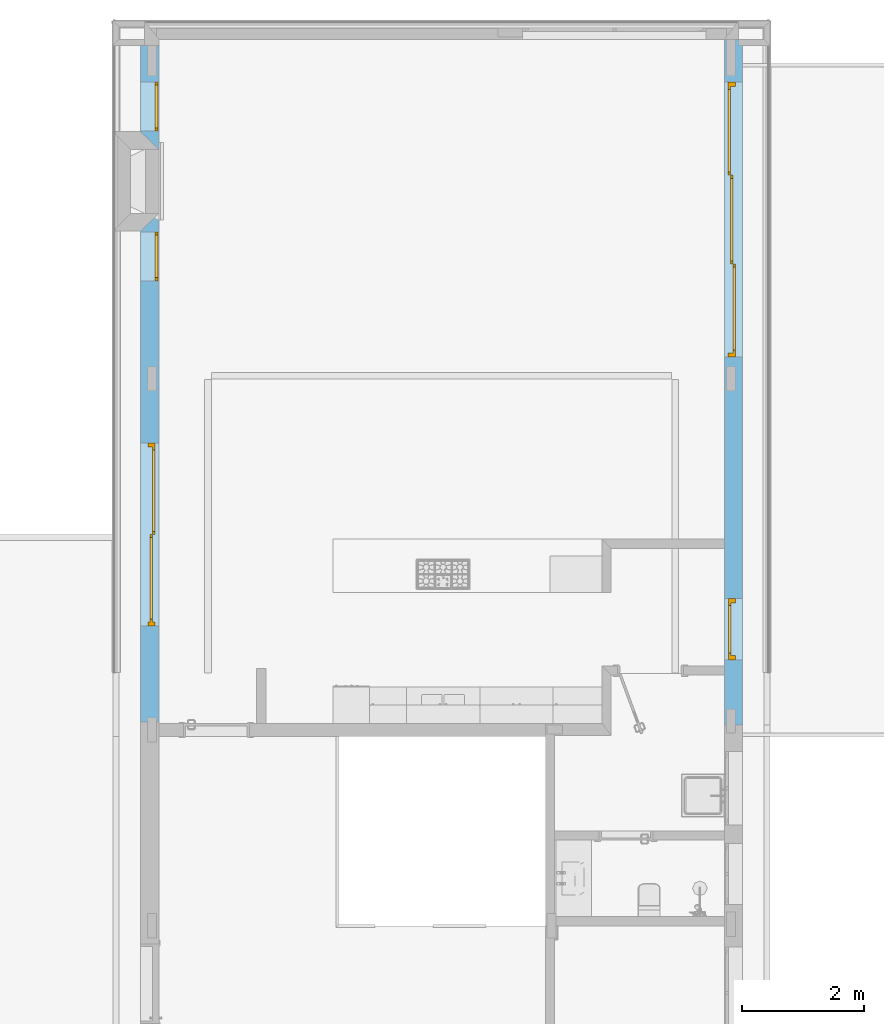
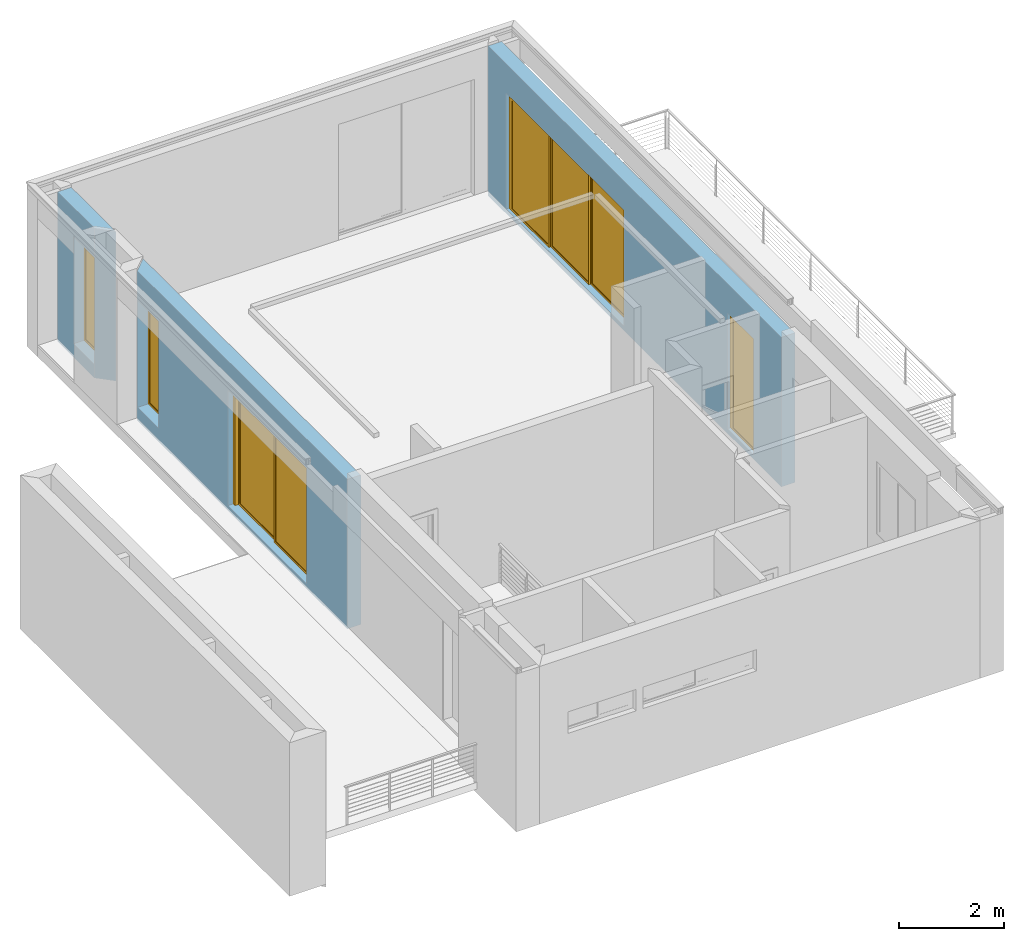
# One storey, part 12 of 26: 3 doors, 2 windows, 5 openings, plus 3 elements that do not belong to this part.
"""IFC2X3 building model written with IfcOpenShell, lengths in millimetres."""

import ifcopenshell
import ifcopenshell.guid

model = None  # the IFC model being written
_history = None  # IfcOwnerHistory: only IFC2X3 demands one
_inside = {}  # id of a spatial element -> (the spatial element, [elements in it])
_under = {}  # id of a project, library or spatial element -> (it, [spatial elements below it])
_declared = {}  # id of a project -> (the project, [libraries it declares])
_typed = {}  # id of a type object -> (the type object, [elements of that type])
_made_of = {}  # id of a material, layer set ... -> (it, [elements and type objects made of it])


def new_model(schema):
    """Start an empty IFC model of exactly this schema.

    Asked for "IFC4X3", IfcOpenShell would pick the latest addendum, in which some entities
    have other attributes; the version numbers below select the first issue.
    IFC2X3 requires an IfcOwnerHistory on every rooted entity: one is made here for all.
    """
    global model, _history
    if schema == "IFC4X3":
        model = ifcopenshell.file(schema_version=(4, 3, 0, 0))
    else:
        model = ifcopenshell.file(schema=schema)
    _inside.clear()
    _under.clear()
    _declared.clear()
    _typed.clear()
    _made_of.clear()
    _history = None
    if model.schema == "IFC2X3":
        org = make("IfcOrganization", Name="unknown")
        user = make(
            "IfcPersonAndOrganization",
            ThePerson=make("IfcPerson", FamilyName="unknown"),
            TheOrganization=org,
        )
        app = make(
            "IfcApplication",
            ApplicationDeveloper=org,
            Version="unknown",
            ApplicationFullName="unknown",
            ApplicationIdentifier="unknown",
        )
        _history = make(
            "IfcOwnerHistory",
            OwningUser=user,
            OwningApplication=app,
            ChangeAction="ADDED",
            CreationDate=0,
        )
    return model


def make(cls, **values):
    """One entity of the class cls with the attributes given. An attribute that is None is left unset."""
    return model.create_entity(
        cls, **{name: value for name, value in values.items() if value is not None}
    )


def entity(cls, *values):
    """Any entity or typed value of the class cls, its attributes in the order of the schema. None: left unset."""
    e = model.create_entity(cls)
    for i, value in enumerate(values):
        if value is not None:
            e[i] = value
    return e


def rooted(cls, **values):
    """An entity with a GlobalId (a new one), such as an element, a storey or a relation."""
    return make(cls, GlobalId=ifcopenshell.guid.new(), OwnerHistory=_history, **values)


def si_unit(unit_type, name, prefix=None):
    """IfcSIUnit, for example si_unit("LENGTHUNIT", "METRE", prefix="MILLI")."""
    return make("IfcSIUnit", UnitType=unit_type, Prefix=prefix, Name=name)


def converted_unit(unit_type, name, factor, base, dimensions=None, offset=None):
    """IfcConversionBasedUnit, such as the inch: factor (a typed value) times the base unit."""
    return make(
        "IfcConversionBasedUnit"
        if offset is None
        else "IfcConversionBasedUnitWithOffset",
        ConversionOffset=offset,
        Dimensions=None
        if dimensions is None
        else entity("IfcDimensionalExponents", *dimensions),
        UnitType=unit_type,
        Name=name,
        ConversionFactor=make(
            "IfcMeasureWithUnit", ValueComponent=factor, UnitComponent=base
        ),
    )


def money_unit(currency):
    """IfcMonetaryUnit."""
    return make("IfcMonetaryUnit", Currency=currency)


def assignment(units):
    """IfcUnitAssignment: the units of a project."""
    return None if units is None else make("IfcUnitAssignment", Units=units)


def point(xyz):
    """IfcCartesianPoint."""
    return None if xyz is None else make("IfcCartesianPoint", Coordinates=xyz)


def direction(xyz):
    """IfcDirection."""
    return None if xyz is None else make("IfcDirection", DirectionRatios=xyz)


def frame(location, z_axis=None, x_axis=None):
    """IfcAxis2Placement3D, a coordinate frame: its origin and axes. An axis left out is left unset."""
    return make(
        "IfcAxis2Placement3D",
        Location=point(location),
        Axis=direction(z_axis),
        RefDirection=direction(x_axis),
    )


def frame_2d(location, x_axis=None):
    """IfcAxis2Placement2D, a coordinate frame in the plane: its origin and x axis."""
    return make(
        "IfcAxis2Placement2D", Location=point(location), RefDirection=direction(x_axis)
    )


def origin_with_axes():
    """The frame at (0, 0, 0) with the z axis (0, 0, 1) and the x axis (1, 0, 0) written out."""
    return frame((0.0, 0.0, 0.0), z_axis=(0.0, 0.0, 1.0), x_axis=(1.0, 0.0, 0.0))


def origin_2d_with_axis():
    """The frame at (0, 0) in the plane with the x axis (1, 0) written out."""
    return frame_2d((0.0, 0.0), x_axis=(1.0, 0.0))


def place(relative_to, where):
    """IfcLocalPlacement: puts the frame where relative to a parent placement (None: the world)."""
    return make(
        "IfcLocalPlacement", PlacementRelTo=relative_to, RelativePlacement=where
    )


def context(
    kind, dimensions, precision=None, world=None, true_north=None, identifier=None
):
    """IfcGeometricRepresentationContext, for example the 3D "Model" context."""
    return make(
        "IfcGeometricRepresentationContext",
        ContextIdentifier=identifier,
        ContextType=kind,
        CoordinateSpaceDimension=dimensions,
        Precision=precision,
        WorldCoordinateSystem=world,
        TrueNorth=true_north,
    )


def subcontext(parent, identifier, kind, view, scale=None):
    """IfcGeometricRepresentationSubContext, for example "Body" below "Model"."""
    return make(
        "IfcGeometricRepresentationSubContext",
        ContextIdentifier=identifier,
        ContextType=kind,
        ParentContext=parent,
        TargetScale=scale,
        TargetView=view,
    )


def project(units=None, contexts=None):
    """IfcProject with its units and contexts."""
    return rooted(
        "IfcProject",
        Name="project",
        RepresentationContexts=contexts,
        UnitsInContext=assignment(units),
    )


def spatial(cls, under=None, at=None, **own):
    """A site, building, storey or space (cls), placed at a placement, below another one or the project."""
    s = rooted(cls, ObjectPlacement=at, **own)
    if under is not None:
        _under.setdefault(under.id(), (under, []))[1].append(s)
    return s


def polyline(points):
    """IfcPolyline through the points."""
    return make("IfcPolyline", Points=[point(p) for p in points])


def profile(cls, at=None, kind="AREA", **sizes):
    """A parametric profile (cls). Its sizes go by their IFC names, for example OverallWidth=200.0."""
    return make(cls, ProfileType=kind, Position=at, **sizes)


def rectangle(**sizes):
    """IfcRectangleProfileDef."""
    return profile("IfcRectangleProfileDef", **sizes)


def outline(outer, holes=None, kind="AREA"):
    """IfcArbitraryClosedProfileDef: a profile drawn as a closed curve; with holes, ...WithVoids."""
    if holes is None:
        return make("IfcArbitraryClosedProfileDef", ProfileType=kind, OuterCurve=outer)
    return make(
        "IfcArbitraryProfileDefWithVoids",
        ProfileType=kind,
        OuterCurve=outer,
        InnerCurves=holes,
    )


def extrude(swept, where, along, depth):
    """IfcExtrudedAreaSolid: the profile swept, set in the frame where, extruded along a direction by depth."""
    return make(
        "IfcExtrudedAreaSolid",
        SweptArea=swept,
        Position=where,
        ExtrudedDirection=direction(along),
        Depth=depth,
    )


def faces_of(points, faces, orient=None, outer=None):
    """IfcFace entities. A face is a list of loops; a loop is a list of indices into points, from 0.

    orient and outer hold one flag for each loop. By default every Orientation is true, the
    first loop of a face is its IfcFaceOuterBound and the others are IfcFaceBound.
    """
    made = []
    for i, loops in enumerate(faces):
        bounds = []
        for j, loop in enumerate(loops):
            is_outer = j == 0 if outer is None else outer[i][j]
            bounds.append(
                make(
                    "IfcFaceOuterBound" if is_outer else "IfcFaceBound",
                    Bound=make("IfcPolyLoop", Polygon=[points[k] for k in loop]),
                    Orientation=True if orient is None else orient[i][j],
                )
            )
        made.append(make("IfcFace", Bounds=bounds))
    return made


def open_shell(faces, orient=None, outer=None):
    """The faces of one IfcOpenShell. surface_model builds it on its shared points."""
    return ("IfcOpenShell", faces, orient, outer)


def faceted_brep(points, faces, orient=None, outer=None, voids=None):
    """IfcFacetedBrep: a solid bounded by flat faces; with voids (closed shells), ...WithVoids."""
    shared = [point(p) for p in points]
    hull = make("IfcClosedShell", CfsFaces=faces_of(shared, faces, orient, outer))
    if voids is None:
        return make("IfcFacetedBrep", Outer=hull)
    return make(
        "IfcFacetedBrepWithVoids",
        Outer=hull,
        Voids=[
            make(cls, CfsFaces=faces_of(shared, fs, o, b)) for cls, fs, o, b in voids
        ],
    )


def surface_model(cls, points, shells):
    """IfcFaceBasedSurfaceModel or IfcShellBasedSurfaceModel (cls): surfaces that need not close."""
    shared = [point(p) for p in points]
    made = [make(c, CfsFaces=faces_of(shared, fs, o, b)) for c, fs, o, b in shells]
    if cls == "IfcFaceBasedSurfaceModel":
        return make(cls, FbsmFaces=made)
    return make(cls, SbsmBoundary=made)


def shape(context_of_items, identifier, shape_type, items):
    """IfcShapeRepresentation: the items that make up one representation, for example the "Body"."""
    return make(
        "IfcShapeRepresentation",
        ContextOfItems=context_of_items,
        RepresentationIdentifier=identifier,
        RepresentationType=shape_type,
        Items=items,
    )


def material(Name=None, Category=None):
    """IfcMaterial."""
    return make("IfcMaterial", Name=Name, Category=Category)


def material_list(materials):
    """IfcMaterialList."""
    return make("IfcMaterialList", Materials=materials)


def layer(
    of_material, thickness, ventilated=None, Name=None, Category=None, Priority=None
):
    """IfcMaterialLayer: one layer of a wall or slab, of a material (None: an air gap)."""
    return make(
        "IfcMaterialLayer",
        Material=of_material,
        LayerThickness=thickness,
        IsVentilated=ventilated,
        Name=Name,
        Category=Category,
        Priority=Priority,
    )


def layer_set(layers, Name=None):
    """IfcMaterialLayerSet."""
    return make("IfcMaterialLayerSet", MaterialLayers=layers, LayerSetName=Name)


def layer_usage(for_layer_set, set_direction, sense, offset, extent=None):
    """IfcMaterialLayerSetUsage: how a layer set lies in its element."""
    return make(
        "IfcMaterialLayerSetUsage",
        ForLayerSet=for_layer_set,
        LayerSetDirection=set_direction,
        DirectionSense=sense,
        OffsetFromReferenceLine=offset,
        ReferenceExtent=extent,
    )


def made_of(thing, what):
    """Note that an element or type object is made of a material, layer set ...; save() writes the relation."""
    if what is not None:
        _made_of.setdefault(what.id(), (what, []))[1].append(thing)
    return thing


def type_object(cls, material=None, **own):
    """A type object (cls), such as IfcWallType, which elements share."""
    return made_of(rooted(cls, **own), material)


def element(
    cls,
    number,
    at=None,
    inside=None,
    cuts=None,
    type_object=None,
    material=None,
    context=None,
    identifier="Body",
    shape_type=None,
    held_by="IfcProductDefinitionShape",
    body=None,
    shapes=None,
    **own,
):
    """One element of the class cls, such as IfcWall. Its Tag is "e" and its number.

    at: its placement. inside: the storey or other place that contains it. cuts: it is an
    opening in that element (IfcRelVoidsElement). A single representation is given by context,
    identifier, shape_type and body (its items); several are given by shapes. held_by: the class
    of the entity that holds the representations. save() writes the other relations.
    """
    e = rooted(cls, Tag="e%d" % number, ObjectPlacement=at, **own)
    if body is not None:
        shapes = [shape(context, identifier, shape_type, body)]
    if shapes is not None:
        e.Representation = make(held_by, Representations=shapes)
    if inside is not None:
        _inside.setdefault(inside.id(), (inside, []))[1].append(e)
    if cuts is not None:
        rooted(
            "IfcRelVoidsElement", RelatingBuildingElement=cuts, RelatedOpeningElement=e
        )
    if type_object is not None:
        _typed.setdefault(type_object.id(), (type_object, []))[1].append(e)
    return made_of(e, material)


def fill(opening, filler):
    """IfcRelFillsElement: the door or window that sits in an opening."""
    return rooted(
        "IfcRelFillsElement",
        RelatingOpeningElement=opening,
        RelatedBuildingElement=filler,
    )


def aggregate(whole, parts):
    """IfcRelAggregates: a whole, such as a stair, and the parts it consists of."""
    return rooted("IfcRelAggregates", RelatingObject=whole, RelatedObjects=parts)


def save(model, path):
    """Write the relations noted so far, then the file.

    IfcRelAggregates (storeys below a building ...), IfcRelContainedInSpatialStructure (elements
    in a storey), IfcRelDefinesByType, IfcRelAssociatesMaterial and IfcRelDeclares: one each for
    every whole, place, type object, material and project.
    """
    for whole, parts in _under.values():
        aggregate(whole, parts)
    for where, things in _inside.values():
        rooted(
            "IfcRelContainedInSpatialStructure",
            RelatedElements=things,
            RelatingStructure=where,
        )
    for kind, things in _typed.values():
        rooted("IfcRelDefinesByType", RelatedObjects=things, RelatingType=kind)
    for what, things in _made_of.values():
        rooted("IfcRelAssociatesMaterial", RelatedObjects=things, RelatingMaterial=what)
    for by, libraries in _declared.values():
        rooted("IfcRelDeclares", RelatingContext=by, RelatedDefinitions=libraries)
    model.write(path)


model = new_model("IFC2X3")

# Units and contexts
model_context = context("Model", 3, precision=1e-05, world=origin_with_axes(), true_north=direction((0.0, 1.0)))
body_context = subcontext(model_context, "Body", "Model", "MODEL_VIEW")
ifc_project = project(units=[si_unit("LENGTHUNIT", "METRE", prefix="MILLI"), si_unit("AREAUNIT", "SQUARE_METRE"), si_unit("VOLUMEUNIT", "CUBIC_METRE"), converted_unit("PLANEANGLEUNIT", "DEGREE", entity("IfcPlaneAngleMeasure", 0.0174532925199), si_unit("PLANEANGLEUNIT", "RADIAN"), dimensions=[0, 0, 0, 0, 0, 0, 0]), si_unit("SOLIDANGLEUNIT", "STERADIAN"), money_unit("USD"), converted_unit("TIMEUNIT", "Year", entity("IfcTimeMeasure", 31556926.0), si_unit("TIMEUNIT", "SECOND"), dimensions=[0, 0, 0, 0, 0, 0, 0]), si_unit("MASSUNIT", "GRAM"), si_unit("THERMODYNAMICTEMPERATUREUNIT", "DEGREE_CELSIUS"), si_unit("LUMINOUSINTENSITYUNIT", "LUMEN")], contexts=[model_context])

# Site, building, storey
site_placement = place(None, origin_with_axes())
site = spatial("IfcSite", under=ifc_project, at=site_placement, Name="Grove Residential", CompositionType="ELEMENT")
building_placement = place(site_placement, origin_with_axes())
building = spatial("IfcBuilding", under=site, at=building_placement, Name="Building", CompositionType="ELEMENT")
storey_placement = place(building_placement, origin_with_axes())
storey = spatial("IfcBuildingStorey", under=building, at=storey_placement, Name="Ground Floor", CompositionType="ELEMENT", Elevation=0.0)

# Wall, opening, window
ifc_material_1 = material(Name="Timber - External Cladding")
ifc_layer_1 = layer(ifc_material_1, 40.0, ventilated="UNKNOWN")
ifc_material_2 = material(Name="Air Space - Fixing Zone")
ifc_layer_2 = layer(ifc_material_2, 25.0, ventilated="UNKNOWN")
ifc_material_3 = material(Name="Insulation - Plastic Soft")
ifc_layer_3 = layer(ifc_material_3, 50.0, ventilated="UNKNOWN")
ifc_material_4 = material(Name="Concrete Block")
ifc_layer_4 = layer(ifc_material_4, 150.0, ventilated="UNKNOWN")
ifc_layer_5 = layer(ifc_material_2, 10.0, ventilated="UNKNOWN")
ifc_material_5 = material(Name="Gypsum Plasterboard")
ifc_layer_6 = layer(ifc_material_5, 12.5, ventilated="UNKNOWN")
ifc_layer_7 = layer(ifc_material_5, 12.5, ventilated="UNKNOWN")
ifc_layer_set = layer_set([ifc_layer_1, ifc_layer_2, ifc_layer_3, ifc_layer_4, ifc_layer_5, ifc_layer_6, ifc_layer_7], Name="EWF - 002")
ifc_layer_usage_1 = layer_usage(ifc_layer_set, "AXIS2", "NEGATIVE", 115.0)
wall_type = type_object("IfcWallType", Name="EWF - 002 300", PredefinedType="NOTDEFINED")
wall_1_placement = place(storey_placement, frame((564.999983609, 16635.0, -110.0), z_axis=(0.0, 0.0, 1.0), x_axis=(0.0, 1.0, 0.0)))
wall_1 = element("IfcWallStandardCase", 1, at=wall_1_placement, inside=storey, type_object=wall_type, material=ifc_layer_usage_1, Name="SW - 001", context=body_context, shape_type="SweptSolid", body=[
    extrude(outline(polyline([(-185.0, -185.0), (1515.0, -185.0), (1515.0, 115.0), (105.0, 115.0), (-185.0, -185.0)])), origin_with_axes(), (0.0, 0.0, 1.0), 3490.0),
])
opening_1_placement = place(wall_1_placement, frame((515.0, 0.0, 310.0), z_axis=(0.0, 0.0, 1.0), x_axis=(1.0, 0.0, 0.0)))
opening_1 = element("IfcOpeningElement", 2, at=opening_1_placement, cuts=wall_1, Name="W.01", context=body_context, shape_type="SweptSolid", body=[
    extrude(rectangle(XDim=800.0, YDim=2500.0, at=origin_2d_with_axis()), frame((0.0, -120.0, 1250.0), z_axis=(0.0, 1.0, 0.0), x_axis=(1.0, 0.0, 0.0)), (0.0, 0.0, 1.0), 535.0),
    extrude(rectangle(XDim=800.0, YDim=2500.0, at=origin_2d_with_axis()), frame((0.0, -120.0, 1250.0), z_axis=(0.0, -1.0, 0.0), x_axis=(1.0, 0.0, 0.0)), (0.0, 0.0, 1.0), 365.0),
])
ifc_material_6 = material(Name="Background")
ifc_material_7 = material(Name="Air Space")
ifc_material_8 = material(Name="Rigid Insulation")
ifc_material_9 = material(Name="Batt Insulation")
ifc_material_list_1 = material_list([ifc_material_6, ifc_material_7, ifc_material_6, ifc_material_6, ifc_material_6, ifc_material_8, ifc_material_6, ifc_material_6, ifc_material_6, ifc_material_6, ifc_material_7, ifc_material_6, ifc_material_9])
window_style = type_object("IfcWindowStyle", Name="Window 21", ConstructionType="NOTDEFINED", OperationType="SINGLE_PANEL", ParameterTakesPrecedence=False, Sizeable=False)
window_1_placement = place(opening_1_placement, frame((400.0, 0.0, 0.0), z_axis=(0.0, 0.0, 1.0), x_axis=(-1.0, 0.0, 0.0)))
window_1 = element("IfcWindow", 3, at=window_1_placement, inside=storey, type_object=window_style, material=ifc_material_list_1, Name="W.01", OverallHeight=2500.0, OverallWidth=800.0, context=body_context, shape_type="SurfaceModel", body=[
    faceted_brep([(750.0, 120.0, 2450.0), (800.0, 120.0, 2450.0), (800.0, 170.0, 2450.0), (750.0, 170.0, 2450.0), (750.0, 120.0, 50.0), (800.0, 120.0, 50.0), (800.0, 170.0, 50.0), (750.0, 170.0, 50.0)], [[[0, 1, 2, 3]], [[0, 4, 5, 1]], [[1, 5, 6, 2]], [[3, 2, 6, 7]], [[4, 0, 3, 7]], [[5, 4, 7, 6]]]),
    faceted_brep([(50.0, 120.0, 50.0), (0.0, 120.0, 50.0), (0.0, 170.0, 50.0), (50.0, 170.0, 50.0), (50.0, 120.0, 2450.0), (0.0, 120.0, 2450.0), (0.0, 170.0, 2450.0), (50.0, 170.0, 2450.0)], [[[0, 1, 2, 3]], [[0, 4, 5, 1]], [[1, 5, 6, 2]], [[3, 2, 6, 7]], [[4, 0, 3, 7]], [[5, 4, 7, 6]]]),
    faceted_brep([(750.0, 120.0, 50.0), (800.0, 120.0, 50.0), (800.0, 170.0, 50.0), (750.0, 170.0, 50.0), (50.0, 120.0, 50.0), (0.0, 120.0, 50.0), (0.0, 120.0, 0.0), (800.0, 120.0, 0.0), (800.0, 170.0, 0.0), (0.0, 170.0, 0.0), (0.0, 170.0, 50.0), (50.0, 170.0, 50.0)], [[[0, 1, 2, 3]], [[0, 4, 5, 6, 7, 1]], [[1, 7, 8, 2]], [[3, 2, 8, 9, 10, 11]], [[4, 0, 3, 11]], [[5, 4, 11, 10]], [[6, 5, 10, 9]], [[7, 6, 9, 8]]]),
    faceted_brep([(50.0, 120.0, 2450.0), (0.0, 120.0, 2450.0), (0.0, 170.0, 2450.0), (50.0, 170.0, 2450.0), (750.0, 120.0, 2450.0), (800.0, 120.0, 2450.0), (800.0, 120.0, 2500.0), (0.0, 120.0, 2500.0), (0.0, 170.0, 2500.0), (800.0, 170.0, 2500.0), (800.0, 170.0, 2450.0), (750.0, 170.0, 2450.0)], [[[0, 1, 2, 3]], [[0, 4, 5, 6, 7, 1]], [[1, 7, 8, 2]], [[3, 2, 8, 9, 10, 11]], [[4, 0, 3, 11]], [[5, 4, 11, 10]], [[6, 5, 10, 9]], [[7, 6, 9, 8]]]),
    surface_model("IfcShellBasedSurfaceModel", [(750.0, 135.0, 50.0), (750.0, 135.0, 2450.0), (50.0, 135.0, 2450.0), (50.0, 135.0, 50.0)], [open_shell([[[0, 1, 2, 3]]])]),
    surface_model("IfcShellBasedSurfaceModel", [(750.0, 155.0, 50.0), (50.0, 155.0, 50.0), (50.0, 155.0, 2450.0), (750.0, 155.0, 2450.0)], [open_shell([[[0, 1, 2, 3]]])]),
])
fill(opening_1, window_1)

# Wall, openings, doors
ifc_layer_usage_2 = layer_usage(ifc_layer_set, "AXIS2", "NEGATIVE", 115.0)
wall_2_placement = place(storey_placement, frame((10185.0, 18250.0, -110.0), z_axis=(0.0, 0.0, 1.0), x_axis=(0.0, -1.0, 0.0)))
wall_2 = element("IfcWallStandardCase", 4, at=wall_2_placement, inside=storey, type_object=wall_type, material=ifc_layer_usage_2, Name="SW - 002", context=body_context, shape_type="SweptSolid", body=[
    extrude(outline(polyline([(0.0, -185.0), (11215.0, -185.0), (11215.0, 115.0), (0.0, 115.0), (0.0, -185.0)])), origin_with_axes(), (0.0, 0.0, 1.0), 3490.0),
])
opening_2_placement = place(wall_2_placement, frame((9650.0, 0.0, 110.0), z_axis=(0.0, 0.0, 1.0), x_axis=(1.0, 0.0, 0.0)))
opening_2 = element("IfcOpeningElement", 5, at=opening_2_placement, cuts=wall_2, Name="D.03", context=body_context, shape_type="SweptSolid", body=[
    extrude(rectangle(XDim=1000.0, YDim=2700.0, at=origin_2d_with_axis()), frame((0.0, -5.0, 1350.0), z_axis=(0.0, 1.0, 0.0), x_axis=(-1.0, 0.0, 0.0)), (0.0, 0.0, -1.0), 480.0),
    extrude(rectangle(XDim=1000.0, YDim=2700.0, at=origin_2d_with_axis()), frame((0.0, -5.0, 1350.0), z_axis=(0.0, -1.0, 0.0), x_axis=(-1.0, 0.0, 0.0)), (0.0, 0.0, -1.0), 420.0),
])
opening_3_placement = place(wall_2_placement, frame((2950.0, 0.0, 110.0), z_axis=(0.0, 0.0, 1.0), x_axis=(1.0, 0.0, 0.0)))
opening_3 = element("IfcOpeningElement", 6, at=opening_3_placement, cuts=wall_2, Name="D.11", context=body_context, shape_type="SweptSolid", body=[
    extrude(rectangle(XDim=4500.0, YDim=2700.0, at=origin_2d_with_axis()), frame((0.0, -5.0, 1350.0), z_axis=(0.0, 1.0, 0.0), x_axis=(-1.0, 0.0, 0.0)), (0.0, 0.0, -1.0), 480.0),
    extrude(rectangle(XDim=4500.0, YDim=2700.0, at=origin_2d_with_axis()), frame((0.0, -5.0, 1350.0), z_axis=(0.0, -1.0, 0.0), x_axis=(-1.0, 0.0, 0.0)), (0.0, 0.0, -1.0), 420.0),
])
ifc_material_10 = material(Name="Foreground")
ifc_material_list_2 = material_list([ifc_material_6, ifc_material_7, ifc_material_10, ifc_material_6, ifc_material_6, ifc_material_6, ifc_material_6, ifc_material_8, ifc_material_6, ifc_material_6, ifc_material_6, ifc_material_6, ifc_material_7, ifc_material_6, ifc_material_9, ifc_material_6])
door_style_1 = type_object("IfcDoorStyle", Name="Sliding Door 21", ConstructionType="NOTDEFINED", OperationType="USERDEFINED", ParameterTakesPrecedence=False, Sizeable=False)
door_1_placement = place(opening_3_placement, frame((2250.0, 0.0, 0.0), z_axis=(0.0, 0.0, 1.0), x_axis=(-1.0, 0.0, 0.0)))
door_1 = element("IfcDoor", 7, at=door_1_placement, inside=storey, type_object=door_style_1, material=ifc_material_list_2, Name="D.11", OverallHeight=2700.0, OverallWidth=4500.0, context=body_context, shape_type="SurfaceModel", body=[
    faceted_brep([(0.0, 125.0, 0.0), (70.0, 125.0, 0.0), (70.0, 5.0, 0.0), (0.0, 5.0, 0.0), (0.0, 125.0, 2630.0), (70.0, 125.0, 2630.0), (70.0, 5.0, 2630.0), (0.0, 5.0, 2630.0)], [[[0, 1, 2, 3]], [[0, 4, 5, 1]], [[1, 5, 6, 2]], [[3, 2, 6, 7]], [[4, 0, 3, 7]], [[5, 4, 7, 6]]]),
    faceted_brep([(4500.0, 125.0, 0.0), (4500.0, 125.0, 2630.0), (4500.0, 5.0, 2630.0), (4500.0, 5.0, 0.0), (4430.0, 125.0, 0.0), (4430.0, 125.0, 2630.0), (4430.0, 5.0, 2630.0), (4430.0, 5.0, 0.0)], [[[0, 1, 2, 3]], [[0, 4, 5, 1]], [[1, 5, 6, 2]], [[3, 2, 6, 7]], [[4, 0, 3, 7]], [[5, 4, 7, 6]]]),
    faceted_brep([(0.0, 125.0, 2700.0), (0.0, 125.0, 2630.0), (0.0, 5.0, 2630.0), (0.0, 5.0, 2700.0), (4500.0, 125.0, 2700.0), (4500.0, 125.0, 2630.0), (4430.0, 125.0, 2630.0), (70.0, 125.0, 2630.0), (70.0, 5.0, 2630.0), (4430.0, 5.0, 2630.0), (4500.0, 5.0, 2630.0), (4500.0, 5.0, 2700.0)], [[[0, 1, 2, 3]], [[0, 4, 5, 6, 7, 1]], [[1, 7, 8, 2]], [[3, 2, 8, 9, 10, 11]], [[4, 0, 3, 11]], [[5, 4, 11, 10]], [[6, 5, 10, 9]], [[7, 6, 9, 8]]]),
    faceted_brep([(4430.0, 125.0, 50.0), (4430.0, 85.0, 50.0), (4380.0, 85.0, 50.0), (4380.0, 125.0, 50.0), (4430.0, 125.0, 2580.0), (4430.0, 85.0, 2580.0), (4380.0, 85.0, 2580.0), (4380.0, 125.0, 2580.0)], [[[0, 1, 2, 3]], [[4, 5, 1, 0]], [[1, 5, 6, 2]], [[3, 2, 6, 7]], [[0, 3, 7, 4]], [[7, 6, 5, 4]]]),
    faceted_brep([(2976.66666667, 125.0, 50.0), (2976.66666667, 85.0, 50.0), (2976.66666667, 85.0, 2580.0), (2976.66666667, 125.0, 2580.0), (3026.66666667, 125.0, 50.0), (3026.66666667, 85.0, 50.0), (3026.66666667, 85.0, 2580.0), (3026.66666667, 125.0, 2580.0)], [[[0, 1, 2, 3]], [[4, 5, 1, 0]], [[1, 5, 6, 2]], [[3, 2, 6, 7]], [[0, 3, 7, 4]], [[7, 6, 5, 4]]]),
    faceted_brep([(4430.0, 125.0, 0.0), (4430.0, 85.0, 0.0), (2976.66666667, 85.0, 0.0), (2976.66666667, 125.0, 0.0), (4430.0, 125.0, 50.0), (4430.0, 85.0, 50.0), (4380.0, 85.0, 50.0), (3026.66666667, 85.0, 50.0), (2976.66666667, 85.0, 50.0), (2976.66666667, 125.0, 50.0), (3026.66666667, 125.0, 50.0), (4380.0, 125.0, 50.0)], [[[0, 1, 2, 3]], [[4, 5, 1, 0]], [[1, 5, 6, 7, 8, 2]], [[3, 2, 8, 9]], [[0, 3, 9, 10, 11, 4]], [[11, 6, 5, 4]], [[10, 7, 6, 11]], [[9, 8, 7, 10]]]),
    faceted_brep([(4430.0, 125.0, 2630.0), (4430.0, 85.0, 2630.0), (4430.0, 85.0, 2580.0), (4430.0, 125.0, 2580.0), (2976.66666667, 125.0, 2630.0), (2976.66666667, 85.0, 2630.0), (2976.66666667, 85.0, 2580.0), (3026.66666667, 85.0, 2580.0), (4380.0, 85.0, 2580.0), (4380.0, 125.0, 2580.0), (3026.66666667, 125.0, 2580.0), (2976.66666667, 125.0, 2580.0)], [[[0, 1, 2, 3]], [[4, 5, 1, 0]], [[1, 5, 6, 7, 8, 2]], [[3, 2, 8, 9]], [[0, 3, 9, 10, 11, 4]], [[11, 6, 5, 4]], [[10, 7, 6, 11]], [[9, 8, 7, 10]]]),
    surface_model("IfcShellBasedSurfaceModel", [(4380.0, 111.0, 50.0), (3026.66666667, 111.0, 50.0), (3026.66666667, 111.0, 2580.0), (4380.0, 111.0, 2580.0)], [open_shell([[[0, 1, 2, 3]]])]),
    surface_model("IfcShellBasedSurfaceModel", [(4380.0, 99.0, 50.0), (4380.0, 99.0, 2580.0), (3026.66666667, 99.0, 2580.0), (3026.66666667, 99.0, 50.0)], [open_shell([[[0, 1, 2, 3]]])]),
    faceted_brep([(2976.66666667, 85.0, 50.0), (2976.66666667, 45.0, 50.0), (2926.66666667, 45.0, 50.0), (2926.66666667, 85.0, 50.0), (2976.66666667, 85.0, 2580.0), (2976.66666667, 45.0, 2580.0), (2926.66666667, 45.0, 2580.0), (2926.66666667, 85.0, 2580.0)], [[[0, 1, 2, 3]], [[4, 5, 1, 0]], [[1, 5, 6, 2]], [[3, 2, 6, 7]], [[0, 3, 7, 4]], [[7, 6, 5, 4]]]),
    faceted_brep([(1523.33333333, 85.0, 50.0), (1523.33333333, 45.0, 50.0), (1523.33333333, 45.0, 2580.0), (1523.33333333, 85.0, 2580.0), (1573.33333333, 85.0, 50.0), (1573.33333333, 45.0, 50.0), (1573.33333333, 45.0, 2580.0), (1573.33333333, 85.0, 2580.0)], [[[0, 1, 2, 3]], [[4, 5, 1, 0]], [[1, 5, 6, 2]], [[3, 2, 6, 7]], [[0, 3, 7, 4]], [[7, 6, 5, 4]]]),
    faceted_brep([(2976.66666667, 85.0, 0.0), (2976.66666667, 45.0, 0.0), (1523.33333333, 45.0, 0.0), (1523.33333333, 85.0, 0.0), (2976.66666667, 85.0, 50.0), (2976.66666667, 45.0, 50.0), (2926.66666667, 45.0, 50.0), (1573.33333333, 45.0, 50.0), (1523.33333333, 45.0, 50.0), (1523.33333333, 85.0, 50.0), (1573.33333333, 85.0, 50.0), (2926.66666667, 85.0, 50.0)], [[[0, 1, 2, 3]], [[4, 5, 1, 0]], [[1, 5, 6, 7, 8, 2]], [[3, 2, 8, 9]], [[0, 3, 9, 10, 11, 4]], [[11, 6, 5, 4]], [[10, 7, 6, 11]], [[9, 8, 7, 10]]]),
    faceted_brep([(2976.66666667, 85.0, 2630.0), (2976.66666667, 45.0, 2630.0), (2976.66666667, 45.0, 2580.0), (2976.66666667, 85.0, 2580.0), (1523.33333333, 85.0, 2630.0), (1523.33333333, 45.0, 2630.0), (1523.33333333, 45.0, 2580.0), (1573.33333333, 45.0, 2580.0), (2926.66666667, 45.0, 2580.0), (2926.66666667, 85.0, 2580.0), (1573.33333333, 85.0, 2580.0), (1523.33333333, 85.0, 2580.0)], [[[0, 1, 2, 3]], [[4, 5, 1, 0]], [[1, 5, 6, 7, 8, 2]], [[3, 2, 8, 9]], [[0, 3, 9, 10, 11, 4]], [[11, 6, 5, 4]], [[10, 7, 6, 11]], [[9, 8, 7, 10]]]),
    surface_model("IfcShellBasedSurfaceModel", [(2926.66666667, 71.0, 50.0), (1573.33333333, 71.0, 50.0), (1573.33333333, 71.0, 2580.0), (2926.66666667, 71.0, 2580.0)], [open_shell([[[0, 1, 2, 3]]])]),
    surface_model("IfcShellBasedSurfaceModel", [(2926.66666667, 59.0, 50.0), (2926.66666667, 59.0, 2580.0), (1573.33333333, 59.0, 2580.0), (1573.33333333, 59.0, 50.0)], [open_shell([[[0, 1, 2, 3]]])]),
    faceted_brep([(1523.33333333, 45.0, 50.0), (1523.33333333, 5.0, 50.0), (1473.33333333, 5.0, 50.0), (1473.33333333, 45.0, 50.0), (1523.33333333, 45.0, 2580.0), (1523.33333333, 5.0, 2580.0), (1473.33333333, 5.0, 2580.0), (1473.33333333, 45.0, 2580.0)], [[[0, 1, 2, 3]], [[4, 5, 1, 0]], [[1, 5, 6, 2]], [[3, 2, 6, 7]], [[0, 3, 7, 4]], [[7, 6, 5, 4]]]),
    faceted_brep([(70.0, 45.0, 50.0), (70.0, 5.0, 50.0), (70.0, 5.0, 2580.0), (70.0, 45.0, 2580.0), (120.0, 45.0, 50.0), (120.0, 5.0, 50.0), (120.0, 5.0, 2580.0), (120.0, 45.0, 2580.0)], [[[0, 1, 2, 3]], [[4, 5, 1, 0]], [[1, 5, 6, 2]], [[3, 2, 6, 7]], [[0, 3, 7, 4]], [[7, 6, 5, 4]]]),
    faceted_brep([(1523.33333333, 45.0, 0.0), (1523.33333333, 5.0, 0.0), (70.0, 5.0, 0.0), (70.0, 45.0, 0.0), (1523.33333333, 45.0, 50.0), (1523.33333333, 5.0, 50.0), (1473.33333333, 5.0, 50.0), (120.0, 5.0, 50.0), (70.0, 5.0, 50.0), (70.0, 45.0, 50.0), (120.0, 45.0, 50.0), (1473.33333333, 45.0, 50.0)], [[[0, 1, 2, 3]], [[4, 5, 1, 0]], [[1, 5, 6, 7, 8, 2]], [[3, 2, 8, 9]], [[0, 3, 9, 10, 11, 4]], [[11, 6, 5, 4]], [[10, 7, 6, 11]], [[9, 8, 7, 10]]]),
    faceted_brep([(1523.33333333, 45.0, 2630.0), (1523.33333333, 5.0, 2630.0), (1523.33333333, 5.0, 2580.0), (1523.33333333, 45.0, 2580.0), (70.0, 45.0, 2630.0), (70.0, 5.0, 2630.0), (70.0, 5.0, 2580.0), (120.0, 5.0, 2580.0), (1473.33333333, 5.0, 2580.0), (1473.33333333, 45.0, 2580.0), (120.0, 45.0, 2580.0), (70.0, 45.0, 2580.0)], [[[0, 1, 2, 3]], [[4, 5, 1, 0]], [[1, 5, 6, 7, 8, 2]], [[3, 2, 8, 9]], [[0, 3, 9, 10, 11, 4]], [[11, 6, 5, 4]], [[10, 7, 6, 11]], [[9, 8, 7, 10]]]),
    surface_model("IfcShellBasedSurfaceModel", [(1473.33333333, 31.0, 50.0), (120.0, 31.0, 50.0), (120.0, 31.0, 2580.0), (1473.33333333, 31.0, 2580.0)], [open_shell([[[0, 1, 2, 3]]])]),
    surface_model("IfcShellBasedSurfaceModel", [(1473.33333333, 19.0, 50.0), (1473.33333333, 19.0, 2580.0), (120.0, 19.0, 2580.0), (120.0, 19.0, 50.0)], [open_shell([[[0, 1, 2, 3]]])]),
])
fill(opening_3, door_1)
door_style_2 = type_object("IfcDoorStyle", Name="Door 21", ConstructionType="NOTDEFINED", OperationType="SINGLE_SWING_RIGHT", ParameterTakesPrecedence=False, Sizeable=False)
door_2_placement = place(opening_2_placement, frame((500.0, 0.0, 0.0), z_axis=(0.0, 0.0, 1.0), x_axis=(-1.0, 0.0, 0.0)))
door_2 = element("IfcDoor", 8, at=door_2_placement, inside=storey, type_object=door_style_2, material=ifc_material_list_2, Name="D.03", OverallHeight=2700.0, OverallWidth=1000.0, context=body_context, shape_type="SurfaceModel", body=[
    faceted_brep([(70.0, 80.0, 0.0), (70.0, 80.0, 2630.0), (70.0, 5.0, 2630.0), (70.0, 5.0, 0.0), (58.0, 80.0, 2630.0), (58.0, 80.0, 0.0), (58.0, 120.0, 2630.0), (0.0, 120.0, 2630.0), (0.0, 5.0, 2630.0), (0.0, 5.0, 0.0), (0.0, 120.0, 0.0), (58.0, 120.0, 0.0)], [[[0, 1, 2, 3]], [[4, 1, 0, 5]], [[4, 6, 7, 8, 2, 1]], [[2, 8, 9, 3]], [[5, 0, 3, 9, 10, 11]], [[6, 4, 5, 11]], [[6, 11, 10, 7]], [[9, 8, 7, 10]]]),
    faceted_brep([(942.0, 80.0, 2630.0), (930.0, 80.0, 2630.0), (930.0, 5.0, 2630.0), (1000.0, 5.0, 2630.0), (1000.0, 120.0, 2630.0), (942.0, 120.0, 2630.0), (942.0, 80.0, 0.0), (930.0, 80.0, 0.0), (930.0, 5.0, 0.0), (1000.0, 5.0, 0.0), (1000.0, 120.0, 0.0), (942.0, 120.0, 0.0)], [[[0, 1, 2, 3, 4, 5]], [[1, 0, 6, 7]], [[1, 7, 8, 2]], [[2, 8, 9, 3]], [[3, 9, 10, 4]], [[11, 5, 4, 10]], [[0, 5, 11, 6]], [[6, 11, 10, 9, 8, 7]]]),
    faceted_brep([(58.0, 120.0, 2642.0), (58.0, 120.0, 2630.0), (0.0, 120.0, 2630.0), (0.0, 120.0, 2700.0), (1000.0, 120.0, 2700.0), (1000.0, 120.0, 2630.0), (942.0, 120.0, 2630.0), (942.0, 120.0, 2642.0), (58.0, 80.0, 2642.0), (58.0, 80.0, 2630.0), (70.0, 80.0, 2630.0), (70.0, 5.0, 2630.0), (0.0, 5.0, 2630.0), (0.0, 5.0, 2700.0), (1000.0, 5.0, 2700.0), (1000.0, 5.0, 2630.0), (942.0, 80.0, 2630.0), (930.0, 5.0, 2630.0), (930.0, 80.0, 2630.0), (942.0, 80.0, 2642.0)], [[[0, 1, 2, 3, 4, 5, 6, 7]], [[1, 0, 8, 9]], [[9, 10, 11, 12, 2, 1]], [[12, 13, 3, 2]], [[13, 14, 4, 3]], [[14, 15, 5, 4]], [[16, 6, 5, 15, 17, 18]], [[7, 6, 16, 19]], [[0, 7, 19, 8]], [[16, 18, 10, 9, 8, 19]], [[10, 18, 17, 11]], [[15, 14, 13, 12, 11, 17]]]),
    faceted_brep([(942.0, 120.0, 50.0), (942.0, 80.0, 50.0), (892.0, 80.0, 50.0), (892.0, 120.0, 50.0), (942.0, 120.0, 2592.0), (942.0, 80.0, 2592.0), (892.0, 80.0, 2592.0), (892.0, 120.0, 2592.0)], [[[0, 1, 2, 3]], [[4, 5, 1, 0]], [[1, 5, 6, 2]], [[3, 2, 6, 7]], [[0, 3, 7, 4]], [[7, 6, 5, 4]]]),
    faceted_brep([(58.0, 120.0, 50.0), (58.0, 80.0, 50.0), (58.0, 80.0, 2592.0), (58.0, 120.0, 2592.0), (108.0, 120.0, 50.0), (108.0, 80.0, 50.0), (108.0, 80.0, 2592.0), (108.0, 120.0, 2592.0)], [[[0, 1, 2, 3]], [[4, 5, 1, 0]], [[1, 5, 6, 2]], [[3, 2, 6, 7]], [[0, 3, 7, 4]], [[7, 6, 5, 4]]]),
    faceted_brep([(942.0, 120.0, 0.0), (942.0, 80.0, 0.0), (58.0, 80.0, 0.0), (58.0, 120.0, 0.0), (942.0, 120.0, 50.0), (942.0, 80.0, 50.0), (892.0, 80.0, 50.0), (108.0, 80.0, 50.0), (58.0, 80.0, 50.0), (58.0, 120.0, 50.0), (108.0, 120.0, 50.0), (892.0, 120.0, 50.0)], [[[0, 1, 2, 3]], [[4, 5, 1, 0]], [[1, 5, 6, 7, 8, 2]], [[3, 2, 8, 9]], [[0, 3, 9, 10, 11, 4]], [[11, 6, 5, 4]], [[10, 7, 6, 11]], [[9, 8, 7, 10]]]),
    faceted_brep([(942.0, 120.0, 2642.0), (942.0, 80.0, 2642.0), (942.0, 80.0, 2592.0), (942.0, 120.0, 2592.0), (58.0, 120.0, 2642.0), (58.0, 80.0, 2642.0), (58.0, 80.0, 2592.0), (108.0, 80.0, 2592.0), (892.0, 80.0, 2592.0), (892.0, 120.0, 2592.0), (108.0, 120.0, 2592.0), (58.0, 120.0, 2592.0)], [[[0, 1, 2, 3]], [[4, 5, 1, 0]], [[1, 5, 6, 7, 8, 2]], [[3, 2, 8, 9]], [[0, 3, 9, 10, 11, 4]], [[11, 6, 5, 4]], [[10, 7, 6, 11]], [[9, 8, 7, 10]]]),
    surface_model("IfcShellBasedSurfaceModel", [(892.0, 106.0, 50.0), (108.0, 106.0, 50.0), (108.0, 106.0, 2592.0), (892.0, 106.0, 2592.0)], [open_shell([[[0, 1, 2, 3]]])]),
    surface_model("IfcShellBasedSurfaceModel", [(892.0, 94.0, 50.0), (892.0, 94.0, 2592.0), (108.0, 94.0, 2592.0), (108.0, 94.0, 50.0)], [open_shell([[[0, 1, 2, 3]]])]),
])
fill(opening_2, door_2)

# Wall, openings, door, window
ifc_layer_usage_3 = layer_usage(ifc_layer_set, "AXIS2", "NEGATIVE", 115.0)
wall_3_placement = place(storey_placement, frame((564.99993667, 7085.00000687, -110.0), z_axis=(0.0, 0.0, 1.0), x_axis=(0.0, 1.0, 0.0)))
wall_3 = element("IfcWallStandardCase", 9, at=wall_3_placement, inside=storey, type_object=wall_type, material=ifc_layer_usage_3, Name="SW - 001", context=body_context, shape_type="SweptSolid", body=[
    extrude(outline(polyline([(0.0, -185.0), (8314.99999313, -185.0), (8024.99999313, 115.0), (0.0, 115.0), (0.0, -185.0)])), origin_with_axes(), (0.0, 0.0, 1.0), 3490.0),
])
opening_4_placement = place(wall_3_placement, frame((7614.99999313, 0.0, 310.0), z_axis=(0.0, 0.0, 1.0), x_axis=(1.0, 0.0, 0.0)))
opening_4 = element("IfcOpeningElement", 10, at=opening_4_placement, cuts=wall_3, Name="W.01", context=body_context, shape_type="SweptSolid", body=[
    extrude(rectangle(XDim=800.0, YDim=2500.0, at=origin_2d_with_axis()), frame((0.0, -120.0, 1250.0), z_axis=(0.0, -1.0, 0.0), x_axis=(-1.0, 0.0, 0.0)), (0.0, 0.0, -1.0), 535.0),
    extrude(rectangle(XDim=800.0, YDim=2500.0, at=origin_2d_with_axis()), frame((0.0, -120.0, 1250.0), z_axis=(0.0, 1.0, 0.0), x_axis=(-1.0, 0.0, 0.0)), (0.0, 0.0, -1.0), 365.0),
])
opening_5_placement = place(wall_3_placement, frame((3064.99999313, 0.0, 110.0), z_axis=(0.0, 0.0, 1.0), x_axis=(1.0, 0.0, 0.0)))
opening_5 = element("IfcOpeningElement", 11, at=opening_5_placement, cuts=wall_3, Name="D.09", context=body_context, shape_type="SweptSolid", body=[
    extrude(rectangle(XDim=3000.0, YDim=2700.0, at=origin_2d_with_axis()), frame((0.0, -5.0, 1350.0), z_axis=(0.0, -1.0, 0.0), x_axis=(1.0, 0.0, 0.0)), (0.0, 0.0, 1.0), 480.0),
    extrude(rectangle(XDim=3000.0, YDim=2700.0, at=origin_2d_with_axis()), frame((0.0, -5.0, 1350.0), z_axis=(0.0, 1.0, 0.0), x_axis=(1.0, 0.0, 0.0)), (0.0, 0.0, 1.0), 420.0),
])
door_3_placement = place(opening_5_placement, frame((1500.0, 0.0, 0.0), z_axis=(0.0, 0.0, 1.0), x_axis=(-1.0, 0.0, 0.0)))
door_3 = element("IfcDoor", 12, at=door_3_placement, inside=storey, type_object=door_style_1, material=ifc_material_list_2, Name="D.09", OverallHeight=2700.0, OverallWidth=3000.0, context=body_context, shape_type="SurfaceModel", body=[
    faceted_brep([(3000.0, 120.0, 0.0), (3000.0, 5.0, 0.0), (2930.0, 5.0, 0.0), (2930.0, 120.0, 0.0), (3000.0, 120.0, 2630.0), (3000.0, 5.0, 2630.0), (2930.0, 5.0, 2630.0), (2930.0, 120.0, 2630.0)], [[[0, 1, 2, 3]], [[4, 5, 1, 0]], [[1, 5, 6, 2]], [[3, 2, 6, 7]], [[0, 3, 7, 4]], [[7, 6, 5, 4]]]),
    faceted_brep([(0.0, 120.0, 0.0), (0.0, 5.0, 0.0), (0.0, 5.0, 2630.0), (0.0, 120.0, 2630.0), (70.0, 120.0, 0.0), (70.0, 5.0, 0.0), (70.0, 5.0, 2630.0), (70.0, 120.0, 2630.0)], [[[0, 1, 2, 3]], [[4, 5, 1, 0]], [[1, 5, 6, 2]], [[3, 2, 6, 7]], [[0, 3, 7, 4]], [[7, 6, 5, 4]]]),
    faceted_brep([(3000.0, 120.0, 2700.0), (3000.0, 5.0, 2700.0), (3000.0, 5.0, 2630.0), (3000.0, 120.0, 2630.0), (0.0, 120.0, 2700.0), (0.0, 5.0, 2700.0), (0.0, 5.0, 2630.0), (70.0, 5.0, 2630.0), (2930.0, 5.0, 2630.0), (2930.0, 120.0, 2630.0), (70.0, 120.0, 2630.0), (0.0, 120.0, 2630.0)], [[[0, 1, 2, 3]], [[4, 5, 1, 0]], [[1, 5, 6, 7, 8, 2]], [[3, 2, 8, 9]], [[0, 3, 9, 10, 11, 4]], [[11, 6, 5, 4]], [[10, 7, 6, 11]], [[9, 8, 7, 10]]]),
    faceted_brep([(70.0, 120.0, 50.0), (120.0, 120.0, 50.0), (120.0, 80.0, 50.0), (70.0, 80.0, 50.0), (70.0, 120.0, 2580.0), (120.0, 120.0, 2580.0), (120.0, 80.0, 2580.0), (70.0, 80.0, 2580.0)], [[[0, 1, 2, 3]], [[0, 4, 5, 1]], [[1, 5, 6, 2]], [[3, 2, 6, 7]], [[4, 0, 3, 7]], [[5, 4, 7, 6]]]),
    faceted_brep([(1500.0, 120.0, 50.0), (1500.0, 120.0, 2580.0), (1500.0, 80.0, 2580.0), (1500.0, 80.0, 50.0), (1450.0, 120.0, 50.0), (1450.0, 120.0, 2580.0), (1450.0, 80.0, 2580.0), (1450.0, 80.0, 50.0)], [[[0, 1, 2, 3]], [[0, 4, 5, 1]], [[1, 5, 6, 2]], [[3, 2, 6, 7]], [[4, 0, 3, 7]], [[5, 4, 7, 6]]]),
    faceted_brep([(70.0, 120.0, 0.0), (1500.0, 120.0, 0.0), (1500.0, 80.0, 0.0), (70.0, 80.0, 0.0), (70.0, 120.0, 50.0), (120.0, 120.0, 50.0), (1450.0, 120.0, 50.0), (1500.0, 120.0, 50.0), (1500.0, 80.0, 50.0), (1450.0, 80.0, 50.0), (120.0, 80.0, 50.0), (70.0, 80.0, 50.0)], [[[0, 1, 2, 3]], [[0, 4, 5, 6, 7, 1]], [[1, 7, 8, 2]], [[3, 2, 8, 9, 10, 11]], [[4, 0, 3, 11]], [[5, 4, 11, 10]], [[6, 5, 10, 9]], [[7, 6, 9, 8]]]),
    faceted_brep([(70.0, 120.0, 2630.0), (70.0, 120.0, 2580.0), (70.0, 80.0, 2580.0), (70.0, 80.0, 2630.0), (1500.0, 120.0, 2630.0), (1500.0, 120.0, 2580.0), (1450.0, 120.0, 2580.0), (120.0, 120.0, 2580.0), (120.0, 80.0, 2580.0), (1450.0, 80.0, 2580.0), (1500.0, 80.0, 2580.0), (1500.0, 80.0, 2630.0)], [[[0, 1, 2, 3]], [[0, 4, 5, 6, 7, 1]], [[1, 7, 8, 2]], [[3, 2, 8, 9, 10, 11]], [[4, 0, 3, 11]], [[5, 4, 11, 10]], [[6, 5, 10, 9]], [[7, 6, 9, 8]]]),
    surface_model("IfcShellBasedSurfaceModel", [(120.0, 106.0, 50.0), (120.0, 106.0, 2580.0), (1450.0, 106.0, 2580.0), (1450.0, 106.0, 50.0)], [open_shell([[[0, 1, 2, 3]]])]),
    surface_model("IfcShellBasedSurfaceModel", [(120.0, 94.0, 50.0), (1450.0, 94.0, 50.0), (1450.0, 94.0, 2580.0), (120.0, 94.0, 2580.0)], [open_shell([[[0, 1, 2, 3]]])]),
    faceted_brep([(1500.0, 80.0, 50.0), (1550.0, 80.0, 50.0), (1550.0, 40.0, 50.0), (1500.0, 40.0, 50.0), (1500.0, 80.0, 2580.0), (1550.0, 80.0, 2580.0), (1550.0, 40.0, 2580.0), (1500.0, 40.0, 2580.0)], [[[0, 1, 2, 3]], [[0, 4, 5, 1]], [[1, 5, 6, 2]], [[3, 2, 6, 7]], [[4, 0, 3, 7]], [[5, 4, 7, 6]]]),
    faceted_brep([(2930.0, 80.0, 50.0), (2930.0, 80.0, 2580.0), (2930.0, 40.0, 2580.0), (2930.0, 40.0, 50.0), (2880.0, 80.0, 50.0), (2880.0, 80.0, 2580.0), (2880.0, 40.0, 2580.0), (2880.0, 40.0, 50.0)], [[[0, 1, 2, 3]], [[0, 4, 5, 1]], [[1, 5, 6, 2]], [[3, 2, 6, 7]], [[4, 0, 3, 7]], [[5, 4, 7, 6]]]),
    faceted_brep([(1500.0, 80.0, 0.0), (2930.0, 80.0, 0.0), (2930.0, 40.0, 0.0), (1500.0, 40.0, 0.0), (1500.0, 80.0, 50.0), (1550.0, 80.0, 50.0), (2880.0, 80.0, 50.0), (2930.0, 80.0, 50.0), (2930.0, 40.0, 50.0), (2880.0, 40.0, 50.0), (1550.0, 40.0, 50.0), (1500.0, 40.0, 50.0)], [[[0, 1, 2, 3]], [[0, 4, 5, 6, 7, 1]], [[1, 7, 8, 2]], [[3, 2, 8, 9, 10, 11]], [[4, 0, 3, 11]], [[5, 4, 11, 10]], [[6, 5, 10, 9]], [[7, 6, 9, 8]]]),
    faceted_brep([(1500.0, 80.0, 2630.0), (1500.0, 80.0, 2580.0), (1500.0, 40.0, 2580.0), (1500.0, 40.0, 2630.0), (2930.0, 80.0, 2630.0), (2930.0, 80.0, 2580.0), (2880.0, 80.0, 2580.0), (1550.0, 80.0, 2580.0), (1550.0, 40.0, 2580.0), (2880.0, 40.0, 2580.0), (2930.0, 40.0, 2580.0), (2930.0, 40.0, 2630.0)], [[[0, 1, 2, 3]], [[0, 4, 5, 6, 7, 1]], [[1, 7, 8, 2]], [[3, 2, 8, 9, 10, 11]], [[4, 0, 3, 11]], [[5, 4, 11, 10]], [[6, 5, 10, 9]], [[7, 6, 9, 8]]]),
    surface_model("IfcShellBasedSurfaceModel", [(1550.0, 66.0, 50.0), (1550.0, 66.0, 2580.0), (2880.0, 66.0, 2580.0), (2880.0, 66.0, 50.0)], [open_shell([[[0, 1, 2, 3]]])]),
    surface_model("IfcShellBasedSurfaceModel", [(1550.0, 54.0, 50.0), (2880.0, 54.0, 50.0), (2880.0, 54.0, 2580.0), (1550.0, 54.0, 2580.0)], [open_shell([[[0, 1, 2, 3]]])]),
])
fill(opening_5, door_3)
window_2_placement = place(opening_4_placement, frame((400.0, 0.0, 0.0), z_axis=(0.0, 0.0, 1.0), x_axis=(-1.0, 0.0, 0.0)))
window_2 = element("IfcWindow", 13, at=window_2_placement, inside=storey, type_object=window_style, material=ifc_material_list_1, Name="W.01", OverallHeight=2500.0, OverallWidth=800.0, context=body_context, shape_type="SurfaceModel", body=[
    faceted_brep([(50.0, 120.0, 2450.0), (50.0, 170.0, 2450.0), (0.0, 170.0, 2450.0), (0.0, 120.0, 2450.0), (50.0, 120.0, 50.0), (50.0, 170.0, 50.0), (0.0, 170.0, 50.0), (0.0, 120.0, 50.0)], [[[0, 1, 2, 3]], [[4, 5, 1, 0]], [[1, 5, 6, 2]], [[3, 2, 6, 7]], [[0, 3, 7, 4]], [[7, 6, 5, 4]]]),
    faceted_brep([(750.0, 120.0, 50.0), (750.0, 170.0, 50.0), (800.0, 170.0, 50.0), (800.0, 120.0, 50.0), (750.0, 120.0, 2450.0), (750.0, 170.0, 2450.0), (800.0, 170.0, 2450.0), (800.0, 120.0, 2450.0)], [[[0, 1, 2, 3]], [[4, 5, 1, 0]], [[1, 5, 6, 2]], [[3, 2, 6, 7]], [[0, 3, 7, 4]], [[7, 6, 5, 4]]]),
    faceted_brep([(50.0, 120.0, 50.0), (50.0, 170.0, 50.0), (0.0, 170.0, 50.0), (0.0, 120.0, 50.0), (750.0, 120.0, 50.0), (750.0, 170.0, 50.0), (800.0, 170.0, 50.0), (800.0, 170.0, 0.0), (0.0, 170.0, 0.0), (0.0, 120.0, 0.0), (800.0, 120.0, 0.0), (800.0, 120.0, 50.0)], [[[0, 1, 2, 3]], [[4, 5, 1, 0]], [[1, 5, 6, 7, 8, 2]], [[3, 2, 8, 9]], [[0, 3, 9, 10, 11, 4]], [[11, 6, 5, 4]], [[10, 7, 6, 11]], [[9, 8, 7, 10]]]),
    faceted_brep([(750.0, 120.0, 2450.0), (750.0, 170.0, 2450.0), (800.0, 170.0, 2450.0), (800.0, 120.0, 2450.0), (50.0, 120.0, 2450.0), (50.0, 170.0, 2450.0), (0.0, 170.0, 2450.0), (0.0, 170.0, 2500.0), (800.0, 170.0, 2500.0), (800.0, 120.0, 2500.0), (0.0, 120.0, 2500.0), (0.0, 120.0, 2450.0)], [[[0, 1, 2, 3]], [[4, 5, 1, 0]], [[1, 5, 6, 7, 8, 2]], [[3, 2, 8, 9]], [[0, 3, 9, 10, 11, 4]], [[11, 6, 5, 4]], [[10, 7, 6, 11]], [[9, 8, 7, 10]]]),
    surface_model("IfcShellBasedSurfaceModel", [(50.0, 135.0, 50.0), (750.0, 135.0, 50.0), (750.0, 135.0, 2450.0), (50.0, 135.0, 2450.0)], [open_shell([[[0, 1, 2, 3]]])]),
    surface_model("IfcShellBasedSurfaceModel", [(50.0, 155.0, 50.0), (50.0, 155.0, 2450.0), (750.0, 155.0, 2450.0), (750.0, 155.0, 50.0)], [open_shell([[[0, 1, 2, 3]]])]),
])
fill(opening_4, window_2)

save(model, "model.ifc")
